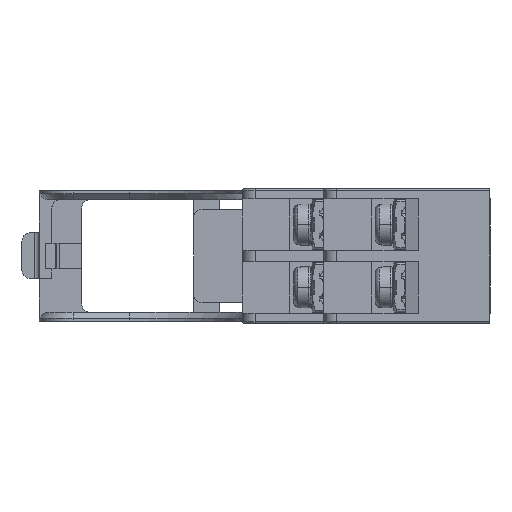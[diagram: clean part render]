
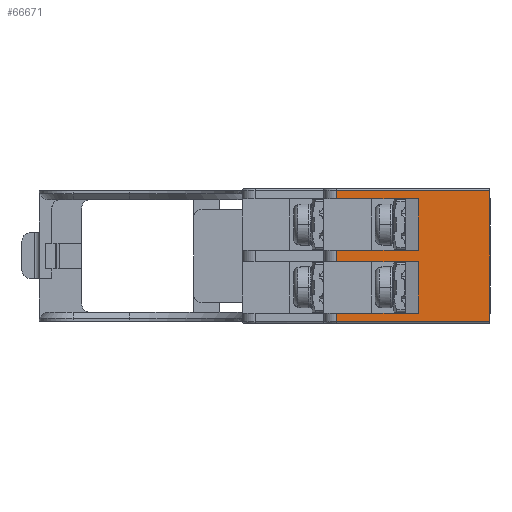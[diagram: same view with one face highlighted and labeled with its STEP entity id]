
A CAD part, left-side view. The second image highlights one B-rep face of the part: STEP entity #66671.
In plain terms, the highlighted planar face has unit normal (-1, 0, 0).
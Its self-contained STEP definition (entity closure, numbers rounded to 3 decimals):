
#404 = VECTOR ( 'NONE', #50658, 1000. ) ;
#1023 = AXIS2_PLACEMENT_3D ( 'NONE', #17311, #40994, #5756 ) ;
#1780 = LINE ( 'NONE', #31341, #31258 ) ;
#2022 = CARTESIAN_POINT ( 'NONE',  ( -34.19, -4.596, -6.7 ) ) ;
#2463 = CARTESIAN_POINT ( 'NONE',  ( -34.19, -4.596, 0.65 ) ) ;
#5756 = DIRECTION ( 'NONE',  ( 0., 1., 0. ) ) ;
#5823 = LINE ( 'NONE', #38525, #66698 ) ;
#6494 = ORIENTED_EDGE ( 'NONE', *, *, #65512, .F. ) ;
#6710 = DIRECTION ( 'NONE',  ( 0., 0., -1. ) ) ;
#8855 = CARTESIAN_POINT ( 'NONE',  ( -34.19, 4.954, -0.65 ) ) ;
#10282 = DIRECTION ( 'NONE',  ( 0., 0., -1. ) ) ;
#11278 = VERTEX_POINT ( 'NONE', #36578 ) ;
#11436 = PLANE ( 'NONE',  #1023 ) ;
#12279 = LINE ( 'NONE', #45491, #71287 ) ;
#12782 = LINE ( 'NONE', #17593, #73639 ) ;
#12795 = FACE_OUTER_BOUND ( 'NONE', #31720, .T. ) ;
#14031 = ORIENTED_EDGE ( 'NONE', *, *, #50731, .T. ) ;
#15249 = CARTESIAN_POINT ( 'NONE',  ( -34.19, -12.996, -7.65 ) ) ;
#15358 = CARTESIAN_POINT ( 'NONE',  ( -34.19, -4.596, -6.75 ) ) ;
#16149 = CARTESIAN_POINT ( 'NONE',  ( -34.19, -4.596, 6.7 ) ) ;
#17311 = CARTESIAN_POINT ( 'NONE',  ( -34.19, -12.996, 8. ) ) ;
#17593 = CARTESIAN_POINT ( 'NONE',  ( -34.19, -4.596, 0.65 ) ) ;
#19451 = CARTESIAN_POINT ( 'NONE',  ( -34.19, -12.996, -7.65 ) ) ;
#20603 = LINE ( 'NONE', #39118, #36283 ) ;
#20611 = EDGE_CURVE ( 'NONE', #45716, #69368, #28148, .T. ) ;
#25721 = CARTESIAN_POINT ( 'NONE',  ( -34.19, 4.954, -7.65 ) ) ;
#25830 = VECTOR ( 'NONE', #35461, 1000. ) ;
#26603 = DIRECTION ( 'NONE',  ( 0., 1., 0. ) ) ;
#27276 = EDGE_CURVE ( 'NONE', #40423, #42667, #46431, .T. ) ;
#27757 = DIRECTION ( 'NONE',  ( 0., 1., 0. ) ) ;
#28145 = CARTESIAN_POINT ( 'NONE',  ( -34.19, 4.954, 7.65 ) ) ;
#28148 = LINE ( 'NONE', #16149, #41984 ) ;
#28173 = EDGE_CURVE ( 'NONE', #71649, #42667, #12279, .T. ) ;
#28859 = VERTEX_POINT ( 'NONE', #41806 ) ;
#29696 = VECTOR ( 'NONE', #6710, 1000. ) ;
#29853 = LINE ( 'NONE', #15358, #404 ) ;
#31258 = VECTOR ( 'NONE', #43149, 1000. ) ;
#31341 = CARTESIAN_POINT ( 'NONE',  ( -34.19, -4.596, -6.7 ) ) ;
#31720 = EDGE_LOOP ( 'NONE', ( #6494, #71972, #65608, #41135, #14031, #47410, #47449, #48726, #58516, #60746, #33773, #54121 ) ) ;
#31722 = VERTEX_POINT ( 'NONE', #28145 ) ;
#33172 = CARTESIAN_POINT ( 'NONE',  ( -34.19, 4.954, 6.7 ) ) ;
#33773 = ORIENTED_EDGE ( 'NONE', *, *, #44047, .F. ) ;
#34548 = CARTESIAN_POINT ( 'NONE',  ( -34.19, -4.596, 6.7 ) ) ;
#35461 = DIRECTION ( 'NONE',  ( 0., 0., -1. ) ) ;
#36283 = VECTOR ( 'NONE', #68551, 1000. ) ;
#36578 = CARTESIAN_POINT ( 'NONE',  ( -34.19, 4.954, 0.65 ) ) ;
#38525 = CARTESIAN_POINT ( 'NONE',  ( -34.19, 4.954, -0.6 ) ) ;
#39118 = CARTESIAN_POINT ( 'NONE',  ( -34.19, -4.596, 0.6 ) ) ;
#40423 = VERTEX_POINT ( 'NONE', #25721 ) ;
#40994 = DIRECTION ( 'NONE',  ( 1., 0., 0. ) ) ;
#41135 = ORIENTED_EDGE ( 'NONE', *, *, #28173, .F. ) ;
#41806 = CARTESIAN_POINT ( 'NONE',  ( -34.19, 4.954, -6.7 ) ) ;
#41932 = EDGE_CURVE ( 'NONE', #28859, #40423, #45315, .T. ) ;
#41984 = VECTOR ( 'NONE', #27757, 1000. ) ;
#42667 = VERTEX_POINT ( 'NONE', #15249 ) ;
#42755 = VECTOR ( 'NONE', #60707, 1000. ) ;
#43149 = DIRECTION ( 'NONE',  ( 0., -1., 0. ) ) ;
#44047 = EDGE_CURVE ( 'NONE', #49217, #67953, #54332, .T. ) ;
#45113 = LINE ( 'NONE', #64920, #25830 ) ;
#45255 = LINE ( 'NONE', #72912, #74879 ) ;
#45315 = LINE ( 'NONE', #65488, #29696 ) ;
#45491 = CARTESIAN_POINT ( 'NONE',  ( -34.19, -12.996, 8. ) ) ;
#45716 = VERTEX_POINT ( 'NONE', #34548 ) ;
#46431 = LINE ( 'NONE', #19451, #42755 ) ;
#47410 = ORIENTED_EDGE ( 'NONE', *, *, #52000, .T. ) ;
#47449 = ORIENTED_EDGE ( 'NONE', *, *, #20611, .F. ) ;
#48726 = ORIENTED_EDGE ( 'NONE', *, *, #74371, .T. ) ;
#49217 = VERTEX_POINT ( 'NONE', #54316 ) ;
#50378 = DIRECTION ( 'NONE',  ( 0., 0., -1. ) ) ;
#50658 = DIRECTION ( 'NONE',  ( 0., 0., -1. ) ) ;
#50731 = EDGE_CURVE ( 'NONE', #71649, #31722, #45255, .T. ) ;
#52000 = EDGE_CURVE ( 'NONE', #31722, #69368, #45113, .T. ) ;
#52468 = VECTOR ( 'NONE', #26603, 1000. ) ;
#53156 = CARTESIAN_POINT ( 'NONE',  ( -34.19, -12.996, 7.65 ) ) ;
#54121 = ORIENTED_EDGE ( 'NONE', *, *, #59691, .T. ) ;
#54316 = CARTESIAN_POINT ( 'NONE',  ( -34.19, -4.596, -0.65 ) ) ;
#54332 = LINE ( 'NONE', #55977, #52468 ) ;
#55353 = DIRECTION ( 'NONE',  ( 0., 1., 0. ) ) ;
#55977 = CARTESIAN_POINT ( 'NONE',  ( -34.19, -4.596, -0.65 ) ) ;
#58516 = ORIENTED_EDGE ( 'NONE', *, *, #65831, .F. ) ;
#58864 = DIRECTION ( 'NONE',  ( 0., -1., 0. ) ) ;
#59691 = EDGE_CURVE ( 'NONE', #49217, #67362, #29853, .T. ) ;
#60707 = DIRECTION ( 'NONE',  ( 0., -1., 0. ) ) ;
#60746 = ORIENTED_EDGE ( 'NONE', *, *, #62324, .T. ) ;
#62324 = EDGE_CURVE ( 'NONE', #11278, #67953, #5823, .T. ) ;
#64920 = CARTESIAN_POINT ( 'NONE',  ( -34.19, 4.954, 6.75 ) ) ;
#65488 = CARTESIAN_POINT ( 'NONE',  ( -34.19, 4.954, -8. ) ) ;
#65512 = EDGE_CURVE ( 'NONE', #28859, #67362, #1780, .T. ) ;
#65608 = ORIENTED_EDGE ( 'NONE', *, *, #27276, .T. ) ;
#65831 = EDGE_CURVE ( 'NONE', #11278, #69730, #12782, .T. ) ;
#66671 = ADVANCED_FACE ( 'NONE', ( #12795 ), #11436, .F. ) ;
#66698 = VECTOR ( 'NONE', #50378, 1000. ) ;
#67362 = VERTEX_POINT ( 'NONE', #2022 ) ;
#67953 = VERTEX_POINT ( 'NONE', #8855 ) ;
#68551 = DIRECTION ( 'NONE',  ( 0., 0., -1. ) ) ;
#69368 = VERTEX_POINT ( 'NONE', #33172 ) ;
#69730 = VERTEX_POINT ( 'NONE', #2463 ) ;
#71287 = VECTOR ( 'NONE', #10282, 1000. ) ;
#71649 = VERTEX_POINT ( 'NONE', #53156 ) ;
#71972 = ORIENTED_EDGE ( 'NONE', *, *, #41932, .T. ) ;
#72912 = CARTESIAN_POINT ( 'NONE',  ( -34.19, 4.954, 7.65 ) ) ;
#73639 = VECTOR ( 'NONE', #58864, 1000. ) ;
#74371 = EDGE_CURVE ( 'NONE', #45716, #69730, #20603, .T. ) ;
#74879 = VECTOR ( 'NONE', #55353, 1000. ) ;
